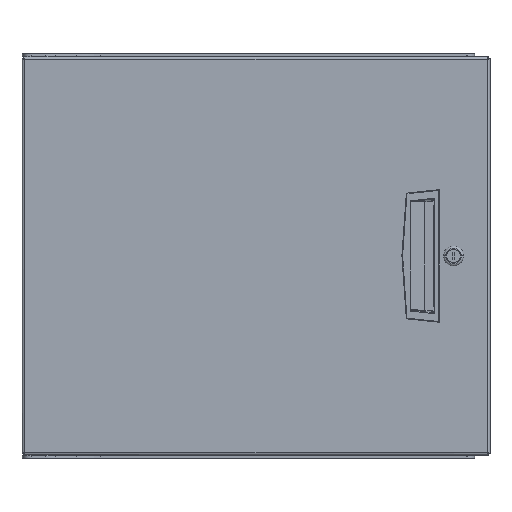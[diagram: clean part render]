
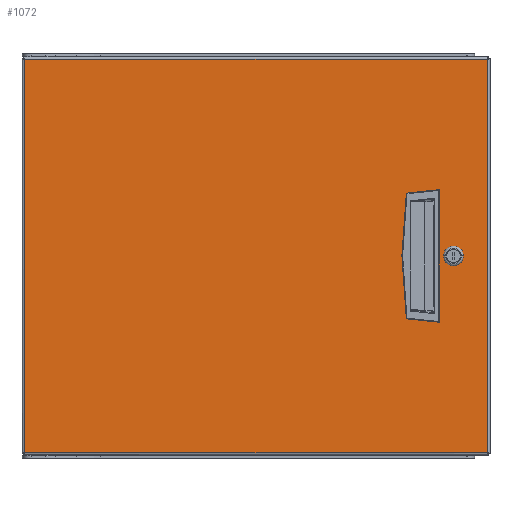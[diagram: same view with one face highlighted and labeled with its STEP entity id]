
A CAD part, top view. The second image highlights one B-rep face of the part: STEP entity #1072.
In plain terms, the highlighted planar face has unit normal (0, 0, 1).
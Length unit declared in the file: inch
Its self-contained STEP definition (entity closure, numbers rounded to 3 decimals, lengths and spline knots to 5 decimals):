
#1=DIRECTION('',(0.,-1.,0.));
#2=VECTOR('',#1,5.2);
#3=CARTESIAN_POINT('',(7.8275,2.6,0.));
#4=LINE('',#3,#2);
#5=DIRECTION('',(1.,0.,0.));
#6=VECTOR('',#5,1.21);
#7=CARTESIAN_POINT('',(6.6175,2.6,0.));
#8=LINE('',#7,#6);
#9=DIRECTION('',(0.,1.,0.));
#10=VECTOR('',#9,5.2);
#11=CARTESIAN_POINT('',(6.6175,-2.6,0.));
#12=LINE('',#11,#10);
#13=DIRECTION('',(-1.,0.,0.));
#14=VECTOR('',#13,1.21);
#15=CARTESIAN_POINT('',(7.8275,-2.6,0.));
#16=LINE('',#15,#14);
#17=CARTESIAN_POINT('',(8.5975,0.,0.));
#18=DIRECTION('',(0.,0.,1.));
#19=DIRECTION('',(0.521,-0.853,0.));
#20=AXIS2_PLACEMENT_3D('',#17,#18,#19);
#22=DIRECTION('',(1.,0.,0.));
#23=VECTOR('',#22,0.39102);
#24=CARTESIAN_POINT('',(8.40199,0.32,0.));
#25=LINE('',#24,#23);
#26=CARTESIAN_POINT('',(8.5975,0.,0.));
#27=DIRECTION('',(0.,0.,1.));
#28=DIRECTION('',(-0.521,0.853,0.));
#29=AXIS2_PLACEMENT_3D('',#26,#27,#28);
#31=DIRECTION('',(-1.,0.,0.));
#32=VECTOR('',#31,0.39102);
#33=CARTESIAN_POINT('',(8.79301,-0.32,0.));
#34=LINE('',#33,#32);
#47=DIRECTION('',(0.,-1.,0.));
#48=VECTOR('',#47,17.126);
#49=CARTESIAN_POINT('',(10.0785,8.563,0.));
#50=LINE('',#49,#48);
#153=DIRECTION('',(1.,0.,0.));
#154=VECTOR('',#153,20.157);
#155=CARTESIAN_POINT('',(-10.0785,8.563,0.));
#156=LINE('',#155,#154);
#177=DIRECTION('',(0.,1.,0.));
#178=VECTOR('',#177,17.126);
#179=CARTESIAN_POINT('',(-10.0785,-8.563,0.));
#180=LINE('',#179,#178);
#229=DIRECTION('',(-1.,0.,0.));
#230=VECTOR('',#229,20.157);
#231=CARTESIAN_POINT('',(10.0785,-8.563,0.));
#232=LINE('',#231,#230);
#837=CARTESIAN_POINT('',(-10.0785,8.563,0.));
#838=CARTESIAN_POINT('',(10.0785,8.563,0.));
#839=VERTEX_POINT('',#837);
#840=VERTEX_POINT('',#838);
#853=CARTESIAN_POINT('',(10.0785,-8.563,0.));
#854=CARTESIAN_POINT('',(-10.0785,-8.563,0.));
#855=VERTEX_POINT('',#853);
#856=VERTEX_POINT('',#854);
#925=CARTESIAN_POINT('',(7.8275,2.6,0.));
#926=CARTESIAN_POINT('',(7.8275,-2.6,0.));
#927=VERTEX_POINT('',#925);
#928=VERTEX_POINT('',#926);
#929=CARTESIAN_POINT('',(6.6175,-2.6,0.));
#930=VERTEX_POINT('',#929);
#931=CARTESIAN_POINT('',(6.6175,2.6,0.));
#932=VERTEX_POINT('',#931);
#933=CARTESIAN_POINT('',(8.79301,-0.32,0.));
#934=CARTESIAN_POINT('',(8.79301,0.32,0.));
#935=VERTEX_POINT('',#933);
#936=VERTEX_POINT('',#934);
#937=CARTESIAN_POINT('',(8.40199,-0.32,0.));
#938=VERTEX_POINT('',#937);
#939=CARTESIAN_POINT('',(8.40199,0.32,0.));
#940=VERTEX_POINT('',#939);
#1037=CARTESIAN_POINT('',(0.,0.,0.));
#1038=DIRECTION('',(0.,0.,1.));
#1039=DIRECTION('',(1.,0.,0.));
#1040=AXIS2_PLACEMENT_3D('',#1037,#1038,#1039);
#1041=PLANE('',#1040);
#1043=ORIENTED_EDGE('',*,*,#1042,.T.);
#1045=ORIENTED_EDGE('',*,*,#1044,.T.);
#1047=ORIENTED_EDGE('',*,*,#1046,.T.);
#1049=ORIENTED_EDGE('',*,*,#1048,.T.);
#1050=EDGE_LOOP('',(#1043,#1045,#1047,#1049));
#1051=FACE_OUTER_BOUND('',#1050,.F.);
#1053=ORIENTED_EDGE('',*,*,#1052,.F.);
#1055=ORIENTED_EDGE('',*,*,#1054,.F.);
#1057=ORIENTED_EDGE('',*,*,#1056,.F.);
#1059=ORIENTED_EDGE('',*,*,#1058,.F.);
#1060=EDGE_LOOP('',(#1053,#1055,#1057,#1059));
#1061=FACE_BOUND('',#1060,.F.);
#1063=ORIENTED_EDGE('',*,*,#1062,.T.);
#1065=ORIENTED_EDGE('',*,*,#1064,.F.);
#1067=ORIENTED_EDGE('',*,*,#1066,.T.);
#1069=ORIENTED_EDGE('',*,*,#1068,.F.);
#1070=EDGE_LOOP('',(#1063,#1065,#1067,#1069));
#1071=FACE_BOUND('',#1070,.F.);
#1072=ADVANCED_FACE('',(#1051,#1061,#1071),#1041,.T.);
#21=CIRCLE('',#20,0.375);
#30=CIRCLE('',#29,0.375);
#1042=EDGE_CURVE('',#840,#855,#50,.T.);
#1044=EDGE_CURVE('',#855,#856,#232,.T.);
#1046=EDGE_CURVE('',#856,#839,#180,.T.);
#1048=EDGE_CURVE('',#839,#840,#156,.T.);
#1052=EDGE_CURVE('',#927,#928,#4,.T.);
#1054=EDGE_CURVE('',#932,#927,#8,.T.);
#1056=EDGE_CURVE('',#930,#932,#12,.T.);
#1058=EDGE_CURVE('',#928,#930,#16,.T.);
#1062=EDGE_CURVE('',#935,#936,#21,.T.);
#1064=EDGE_CURVE('',#940,#936,#25,.T.);
#1066=EDGE_CURVE('',#940,#938,#30,.T.);
#1068=EDGE_CURVE('',#935,#938,#34,.T.);
